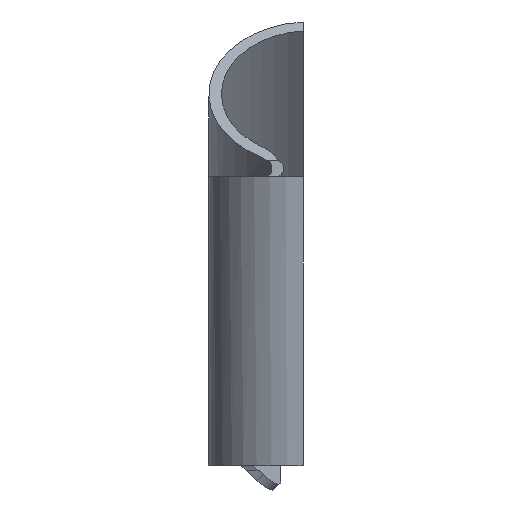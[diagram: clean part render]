
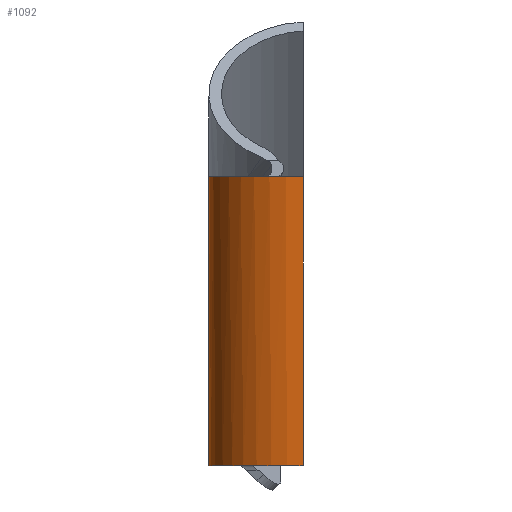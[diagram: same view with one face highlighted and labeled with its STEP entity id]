
A CAD part, left-side view. The second image highlights one B-rep face of the part: STEP entity #1092.
In plain terms, the highlighted cylindrical face has radius 16.25 mm (diameter 32.5 mm), a partial arc.
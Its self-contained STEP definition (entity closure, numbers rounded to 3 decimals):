
#18 = VERTEX_POINT ( 'NONE', #388 ) ;
#77 = DIRECTION ( 'NONE',  ( 0., 0., 1. ) ) ;
#103 = CARTESIAN_POINT ( 'NONE',  ( 14.217, 6.621, -45. ) ) ;
#112 = EDGE_CURVE ( 'NONE', #240, #1488, #2309, .T. ) ;
#181 = CIRCLE ( 'NONE', #494, 16.25 ) ;
#224 = DIRECTION ( 'NONE',  ( 1., 0., 0. ) ) ;
#232 = CARTESIAN_POINT ( 'NONE',  ( 8.57, 12.638, -63.391 ) ) ;
#240 = VERTEX_POINT ( 'NONE', #1370 ) ;
#261 = CARTESIAN_POINT ( 'NONE',  ( 10.933, 10.772, -56.633 ) ) ;
#359 = VERTEX_POINT ( 'NONE', #759 ) ;
#388 = CARTESIAN_POINT ( 'NONE',  ( -16.202, 0., -91. ) ) ;
#440 = CARTESIAN_POINT ( 'NONE',  ( 10.933, 10.772, -56.633 ) ) ;
#456 = CARTESIAN_POINT ( 'NONE',  ( 9.817, 11.787, -59.827 ) ) ;
#475 = DIRECTION ( 'NONE',  ( 0., 0., -1. ) ) ;
#494 = AXIS2_PLACEMENT_3D ( 'NONE', #1993, #77, #2210 ) ;
#522 = CARTESIAN_POINT ( 'NONE',  ( 14.217, 6.621, -45. ) ) ;
#554 = LINE ( 'NONE', #634, #2143 ) ;
#597 = EDGE_CURVE ( 'NONE', #1248, #1589, #1427, .T. ) ;
#634 = CARTESIAN_POINT ( 'NONE',  ( -16.202, 0., -91. ) ) ;
#690 = AXIS2_PLACEMENT_3D ( 'NONE', #1521, #713, #2333 ) ;
#708 = EDGE_CURVE ( 'NONE', #18, #1589, #554, .T. ) ;
#713 = DIRECTION ( 'NONE',  ( 0., 0., 1. ) ) ;
#759 = CARTESIAN_POINT ( 'NONE',  ( 7.005, 13.412, -91. ) ) ;
#766 = B_SPLINE_CURVE_WITH_KNOTS ( 'NONE', 3,
 ( #1088, #934, #2169, #2367 ),
 .UNSPECIFIED., .F., .F.,
 ( 4, 4 ),
 ( 0., 0. ),
 .UNSPECIFIED. ) ;
#815 = LINE ( 'NONE', #1723, #1958 ) ;
#842 = ORIENTED_EDGE ( 'NONE', *, *, #1933, .T. ) ;
#895 = DIRECTION ( 'NONE',  ( 0., 0., 1. ) ) ;
#934 = CARTESIAN_POINT ( 'NONE',  ( 7.148, 13.344, -90.998 ) ) ;
#974 = CYLINDRICAL_SURFACE ( 'NONE', #690, 16.25 ) ;
#1070 = CARTESIAN_POINT ( 'NONE',  ( 7.219, 13.309, -67.258 ) ) ;
#1088 = CARTESIAN_POINT ( 'NONE',  ( 7.219, 13.309, -90.995 ) ) ;
#1092 = ADVANCED_FACE ( 'NONE', ( #1523 ), #974, .T. ) ;
#1120 = DIRECTION ( 'NONE',  ( 0., 0., 1. ) ) ;
#1248 = VERTEX_POINT ( 'NONE', #103 ) ;
#1257 = CARTESIAN_POINT ( 'NONE',  ( 0., -1.25, -45. ) ) ;
#1346 = ORIENTED_EDGE ( 'NONE', *, *, #2241, .T. ) ;
#1370 = CARTESIAN_POINT ( 'NONE',  ( 7.219, 13.309, -67.258 ) ) ;
#1427 = CIRCLE ( 'NONE', #1895, 16.25 ) ;
#1488 = VERTEX_POINT ( 'NONE', #261 ) ;
#1511 = EDGE_LOOP ( 'NONE', ( #1346, #1776, #1632, #1782, #2557, #842, #1704 ) ) ;
#1521 = CARTESIAN_POINT ( 'NONE',  ( 0., -1.25, -91. ) ) ;
#1523 = FACE_OUTER_BOUND ( 'NONE', #1511, .T. ) ;
#1589 = VERTEX_POINT ( 'NONE', #1953 ) ;
#1632 = ORIENTED_EDGE ( 'NONE', *, *, #2399, .T. ) ;
#1704 = ORIENTED_EDGE ( 'NONE', *, *, #112, .F. ) ;
#1723 = CARTESIAN_POINT ( 'NONE',  ( 7.219, 13.309, -91. ) ) ;
#1776 = ORIENTED_EDGE ( 'NONE', *, *, #2286, .T. ) ;
#1782 = ORIENTED_EDGE ( 'NONE', *, *, #708, .T. ) ;
#1895 = AXIS2_PLACEMENT_3D ( 'NONE', #1257, #895, #224 ) ;
#1933 = EDGE_CURVE ( 'NONE', #1248, #1488, #2712, .T. ) ;
#1953 = CARTESIAN_POINT ( 'NONE',  ( -16.202, 0., -45. ) ) ;
#1958 = VECTOR ( 'NONE', #475, 1000. ) ;
#1984 = CARTESIAN_POINT ( 'NONE',  ( 13.354, 8.178, -49.191 ) ) ;
#1993 = CARTESIAN_POINT ( 'NONE',  ( 0., -1.25, -91. ) ) ;
#2057 = VERTEX_POINT ( 'NONE', #2424 ) ;
#2143 = VECTOR ( 'NONE', #1120, 1000. ) ;
#2169 = CARTESIAN_POINT ( 'NONE',  ( 7.077, 13.378, -91. ) ) ;
#2210 = DIRECTION ( 'NONE',  ( 1., 0., 0. ) ) ;
#2241 = EDGE_CURVE ( 'NONE', #240, #2057, #815, .T. ) ;
#2286 = EDGE_CURVE ( 'NONE', #2057, #359, #766, .T. ) ;
#2309 =( BOUNDED_CURVE ( )  B_SPLINE_CURVE ( 3, ( #1070, #232, #456, #440 ),
 .UNSPECIFIED., .F., .T. ) 
 B_SPLINE_CURVE_WITH_KNOTS ( ( 4, 4 ),
 ( 5.173, 5.45 ),
 .UNSPECIFIED. ) 
 CURVE ( )  GEOMETRIC_REPRESENTATION_ITEM ( )  RATIONAL_B_SPLINE_CURVE ( ( 1., 0.994, 0.994, 1. ) ) 
 REPRESENTATION_ITEM ( '' )  );
#2333 = DIRECTION ( 'NONE',  ( 1., 0., 0. ) ) ;
#2367 = CARTESIAN_POINT ( 'NONE',  ( 7.005, 13.412, -91. ) ) ;
#2399 = EDGE_CURVE ( 'NONE', #359, #18, #181, .T. ) ;
#2424 = CARTESIAN_POINT ( 'NONE',  ( 7.219, 13.309, -90.995 ) ) ;
#2476 = CARTESIAN_POINT ( 'NONE',  ( 12.25, 9.574, -53.103 ) ) ;
#2485 = CARTESIAN_POINT ( 'NONE',  ( 10.933, 10.772, -56.633 ) ) ;
#2557 = ORIENTED_EDGE ( 'NONE', *, *, #597, .F. ) ;
#2712 =( BOUNDED_CURVE ( )  B_SPLINE_CURVE ( 3, ( #522, #1984, #2476, #2485 ),
 .UNSPECIFIED., .F., .F. ) 
 B_SPLINE_CURVE_WITH_KNOTS ( ( 4, 4 ),
 ( 1.885, 2.212 ),
 .UNSPECIFIED. ) 
 CURVE ( )  GEOMETRIC_REPRESENTATION_ITEM ( )  RATIONAL_B_SPLINE_CURVE ( ( 1., 0.991, 0.991, 1. ) ) 
 REPRESENTATION_ITEM ( '' )  );
